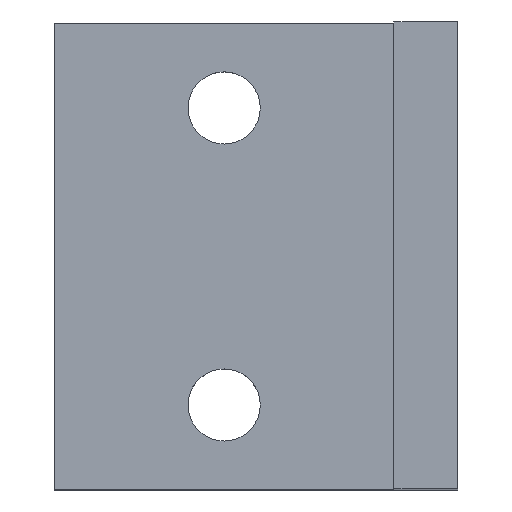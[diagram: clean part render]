
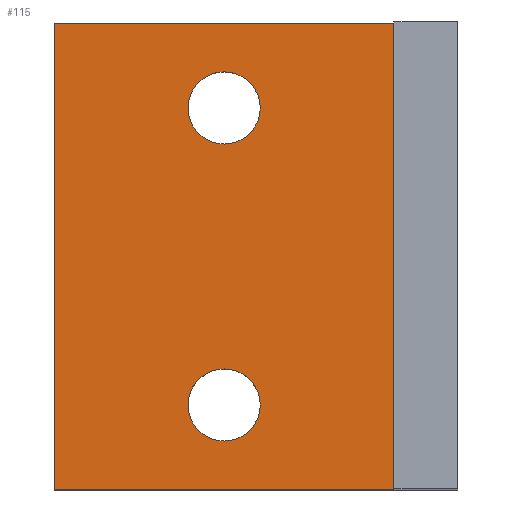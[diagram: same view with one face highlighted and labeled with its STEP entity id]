
A CAD part, top view. The second image highlights one B-rep face of the part: STEP entity #115.
In plain terms, the highlighted planar face has unit normal (0, 0, 1).
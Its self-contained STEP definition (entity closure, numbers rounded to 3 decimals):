
#22 = VERTEX_POINT('',#23);
#23 = CARTESIAN_POINT('',(86.,-106.,21.));
#31 = EDGE_CURVE('',#22,#32,#34,.T.);
#32 = VERTEX_POINT('',#33);
#33 = CARTESIAN_POINT('',(86.,-84.,21.));
#34 = LINE('',#35,#36);
#35 = CARTESIAN_POINT('',(86.,-106.,21.));
#36 = VECTOR('',#37,1.);
#37 = DIRECTION('',(0.,1.,0.));
#81 = EDGE_CURVE('',#82,#22,#84,.T.);
#82 = VERTEX_POINT('',#83);
#83 = CARTESIAN_POINT('',(70.,-106.,21.));
#84 = LINE('',#85,#86);
#85 = CARTESIAN_POINT('',(70.,-106.,21.));
#86 = VECTOR('',#87,1.);
#87 = DIRECTION('',(1.,0.,0.));
#115 = ADVANCED_FACE('',(#116,#134,#145),#156,.T.);
#116 = FACE_BOUND('',#117,.T.);
#117 = EDGE_LOOP('',(#118,#126,#132,#133));
#118 = ORIENTED_EDGE('',*,*,#119,.F.);
#119 = EDGE_CURVE('',#120,#32,#122,.T.);
#120 = VERTEX_POINT('',#121);
#121 = CARTESIAN_POINT('',(70.,-84.,21.));
#122 = LINE('',#123,#124);
#123 = CARTESIAN_POINT('',(70.,-84.,21.));
#124 = VECTOR('',#125,1.);
#125 = DIRECTION('',(1.,0.,0.));
#126 = ORIENTED_EDGE('',*,*,#127,.F.);
#127 = EDGE_CURVE('',#82,#120,#128,.T.);
#128 = LINE('',#129,#130);
#129 = CARTESIAN_POINT('',(70.,-106.,21.));
#130 = VECTOR('',#131,1.);
#131 = DIRECTION('',(0.,1.,0.));
#132 = ORIENTED_EDGE('',*,*,#81,.T.);
#133 = ORIENTED_EDGE('',*,*,#31,.T.);
#134 = FACE_BOUND('',#135,.T.);
#135 = EDGE_LOOP('',(#136));
#136 = ORIENTED_EDGE('',*,*,#137,.F.);
#137 = EDGE_CURVE('',#138,#138,#140,.T.);
#138 = VERTEX_POINT('',#139);
#139 = CARTESIAN_POINT('',(79.7,-102.,21.));
#140 = CIRCLE('',#141,1.7);
#141 = AXIS2_PLACEMENT_3D('',#142,#143,#144);
#142 = CARTESIAN_POINT('',(78.,-102.,21.));
#143 = DIRECTION('',(0.,0.,1.));
#144 = DIRECTION('',(1.,0.,0.));
#145 = FACE_BOUND('',#146,.T.);
#146 = EDGE_LOOP('',(#147));
#147 = ORIENTED_EDGE('',*,*,#148,.F.);
#148 = EDGE_CURVE('',#149,#149,#151,.T.);
#149 = VERTEX_POINT('',#150);
#150 = CARTESIAN_POINT('',(79.7,-88.,21.));
#151 = CIRCLE('',#152,1.7);
#152 = AXIS2_PLACEMENT_3D('',#153,#154,#155);
#153 = CARTESIAN_POINT('',(78.,-88.,21.));
#154 = DIRECTION('',(0.,0.,1.));
#155 = DIRECTION('',(1.,0.,0.));
#156 = PLANE('',#157);
#157 = AXIS2_PLACEMENT_3D('',#158,#159,#160);
#158 = CARTESIAN_POINT('',(70.,-106.,21.));
#159 = DIRECTION('',(0.,0.,1.));
#160 = DIRECTION('',(1.,0.,0.));
